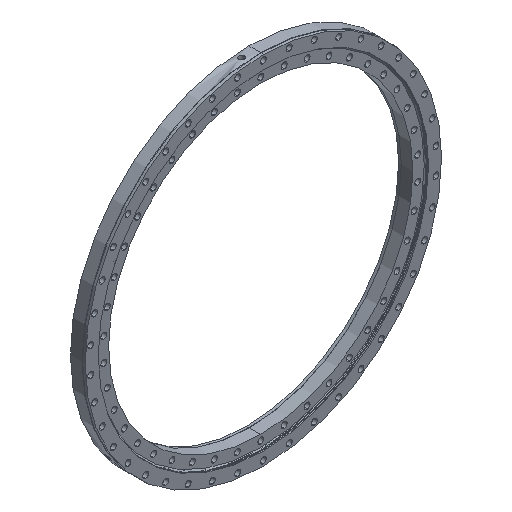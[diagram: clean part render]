
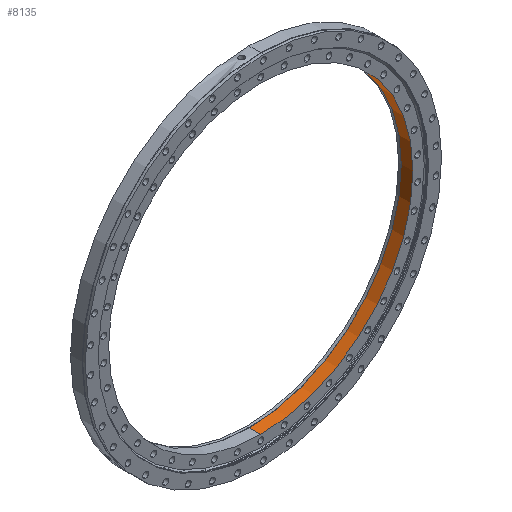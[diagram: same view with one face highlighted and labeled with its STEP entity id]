
A CAD part, isometric view. The second image highlights one B-rep face of the part: STEP entity #8135.
In plain terms, the highlighted cylindrical face has radius 577.5 mm (diameter 1155 mm), a partial arc.
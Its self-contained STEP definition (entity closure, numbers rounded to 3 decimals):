
#56 = CARTESIAN_POINT ( 'NONE',  ( 0., 0., 0. ) ) ;
#433 = VERTEX_POINT ( 'NONE', #4711 ) ;
#440 = DIRECTION ( 'NONE',  ( 0., -1., 0. ) ) ;
#1257 = ORIENTED_EDGE ( 'NONE', *, *, #2559, .T. ) ;
#1293 = VERTEX_POINT ( 'NONE', #3307 ) ;
#1298 = ORIENTED_EDGE ( 'NONE', *, *, #5320, .T. ) ;
#1408 = CARTESIAN_POINT ( 'NONE',  ( 0., 45.134, 0. ) ) ;
#1708 = AXIS2_PLACEMENT_3D ( 'NONE', #8747, #3339, #7494 ) ;
#2496 = DIRECTION ( 'NONE',  ( 0., -1., 0. ) ) ;
#2559 = EDGE_CURVE ( 'NONE', #433, #1293, #4320, .T. ) ;
#2810 = DIRECTION ( 'NONE',  ( 0., -1., 0. ) ) ;
#3307 = CARTESIAN_POINT ( 'NONE',  ( 0., 1.134, 577.5 ) ) ;
#3327 = LINE ( 'NONE', #8725, #6723 ) ;
#3339 = DIRECTION ( 'NONE',  ( 0., -1., 0. ) ) ;
#3474 = DIRECTION ( 'NONE',  ( 0., -1., 0. ) ) ;
#4073 = ORIENTED_EDGE ( 'NONE', *, *, #8301, .F. ) ;
#4094 = AXIS2_PLACEMENT_3D ( 'NONE', #1408, #3474, #6257 ) ;
#4298 = CYLINDRICAL_SURFACE ( 'NONE', #5104, 577.5 ) ;
#4320 = CIRCLE ( 'NONE', #1708, 577.5 ) ;
#4546 = CARTESIAN_POINT ( 'NONE',  ( 0., 0., -577.5 ) ) ;
#4628 = VERTEX_POINT ( 'NONE', #8090 ) ;
#4633 = LINE ( 'NONE', #4546, #6138 ) ;
#4711 = CARTESIAN_POINT ( 'NONE',  ( 0., 1.134, -577.5 ) ) ;
#4850 = DIRECTION ( 'NONE',  ( 0., 0., -1. ) ) ;
#5104 = AXIS2_PLACEMENT_3D ( 'NONE', #56, #2810, #4850 ) ;
#5108 = ORIENTED_EDGE ( 'NONE', *, *, #5634, .F. ) ;
#5133 = VERTEX_POINT ( 'NONE', #6824 ) ;
#5320 = EDGE_CURVE ( 'NONE', #5133, #433, #4633, .T. ) ;
#5577 = FACE_OUTER_BOUND ( 'NONE', #6525, .T. ) ;
#5634 = EDGE_CURVE ( 'NONE', #4628, #1293, #3327, .T. ) ;
#6138 = VECTOR ( 'NONE', #2496, 1000. ) ;
#6257 = DIRECTION ( 'NONE',  ( 0., 0., -1. ) ) ;
#6525 = EDGE_LOOP ( 'NONE', ( #5108, #4073, #1298, #1257 ) ) ;
#6723 = VECTOR ( 'NONE', #440, 1000. ) ;
#6824 = CARTESIAN_POINT ( 'NONE',  ( 0., 45.134, -577.5 ) ) ;
#7012 = CIRCLE ( 'NONE', #4094, 577.5 ) ;
#7494 = DIRECTION ( 'NONE',  ( 0., 0., -1. ) ) ;
#8090 = CARTESIAN_POINT ( 'NONE',  ( 0., 45.134, 577.5 ) ) ;
#8135 = ADVANCED_FACE ( 'NONE', ( #5577 ), #4298, .F. ) ;
#8301 = EDGE_CURVE ( 'NONE', #5133, #4628, #7012, .T. ) ;
#8725 = CARTESIAN_POINT ( 'NONE',  ( 0., 0., 577.5 ) ) ;
#8747 = CARTESIAN_POINT ( 'NONE',  ( 0., 1.134, 0. ) ) ;
